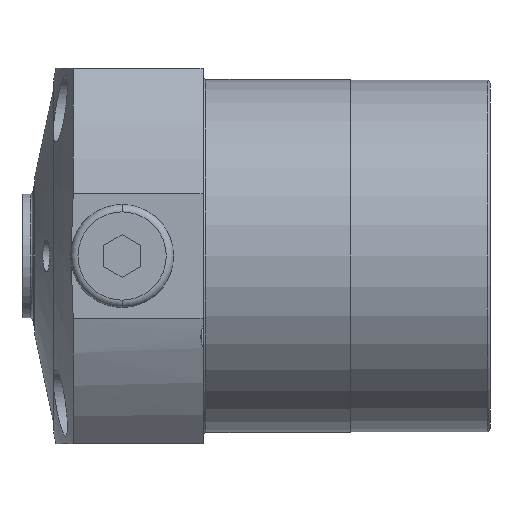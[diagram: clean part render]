
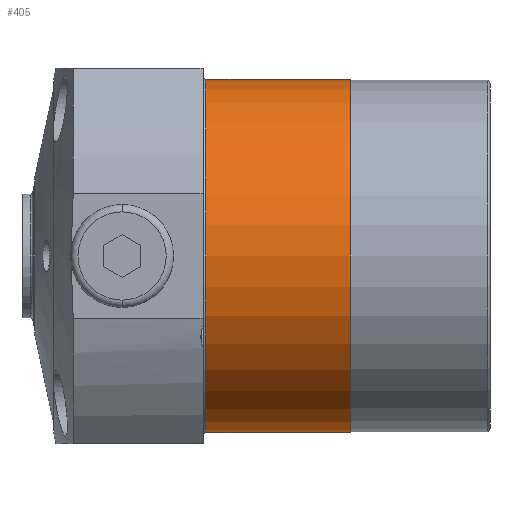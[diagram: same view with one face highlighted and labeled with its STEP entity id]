
A CAD part, left-side view. The second image highlights one B-rep face of the part: STEP entity #405.
In plain terms, the highlighted cylindrical face has radius 24 mm (diameter 48 mm), a partial arc.
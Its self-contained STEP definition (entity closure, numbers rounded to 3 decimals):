
#405=ADVANCED_FACE('',(#628),#540,.T.);
#540=CYLINDRICAL_SURFACE('',#3043,24.);
#628=FACE_OUTER_BOUND('',#797,.T.);
#797=EDGE_LOOP('',(#1563,#1564,#1565,#1566));
#989=LINE('',#4506,#1129);
#990=LINE('',#4508,#1130);
#1129=VECTOR('',#3422,1.);
#1130=VECTOR('',#3425,1.);
#1563=ORIENTED_EDGE('',*,*,#2342,.F.);
#1564=ORIENTED_EDGE('',*,*,#2482,.T.);
#1565=ORIENTED_EDGE('',*,*,#2344,.T.);
#1566=ORIENTED_EDGE('',*,*,#2339,.F.);
#2089=VERTEX_POINT('',#4498);
#2090=VERTEX_POINT('',#4500);
#2091=VERTEX_POINT('',#4504);
#2092=VERTEX_POINT('',#4505);
#2339=EDGE_CURVE('',#2089,#2090,#2679,.T.);
#2342=EDGE_CURVE('',#2092,#2089,#989,.T.);
#2344=EDGE_CURVE('',#2091,#2090,#990,.T.);
#2482=EDGE_CURVE('',#2092,#2091,#2758,.T.);
#2679=CIRCLE('',#2919,24.);
#2758=CIRCLE('',#3041,24.);
#2919=AXIS2_PLACEMENT_3D('',#4499,#3414,#3415);
#3041=AXIS2_PLACEMENT_3D('',#4863,#3703,#3704);
#3043=AXIS2_PLACEMENT_3D('',#4865,#3707,#3708);
#3414=DIRECTION('',(0.,1.,0.));
#3415=DIRECTION('',(0.,0.,1.));
#3422=DIRECTION('',(0.,1.,0.));
#3425=DIRECTION('',(0.,1.,0.));
#3703=DIRECTION('',(0.,1.,0.));
#3704=DIRECTION('',(0.,0.,1.));
#3707=DIRECTION('',(0.,1.,0.));
#3708=DIRECTION('',(0.,0.,-1.));
#4498=CARTESIAN_POINT('',(0.,51.3,-24.));
#4499=CARTESIAN_POINT('',(0.,51.3,0.));
#4500=CARTESIAN_POINT('',(0.,51.3,24.));
#4504=CARTESIAN_POINT('',(0.,31.7,24.));
#4505=CARTESIAN_POINT('',(0.,31.7,-24.));
#4506=CARTESIAN_POINT('',(0.,88.7,-24.));
#4508=CARTESIAN_POINT('',(0.,88.7,24.));
#4863=CARTESIAN_POINT('',(0.,31.7,0.));
#4865=CARTESIAN_POINT('',(0.,88.7,0.));
